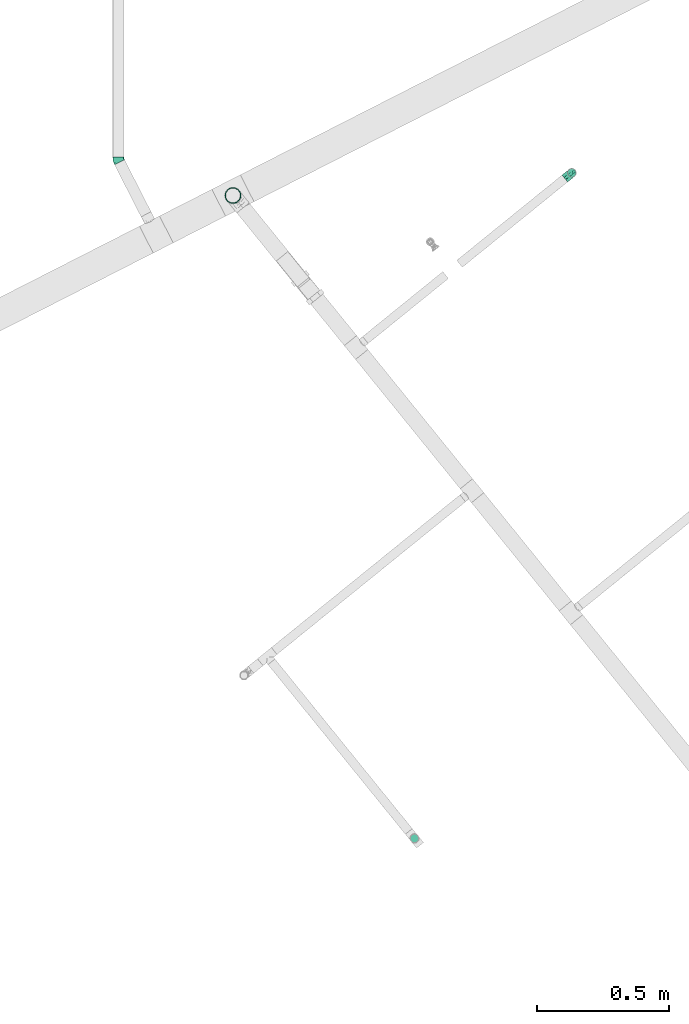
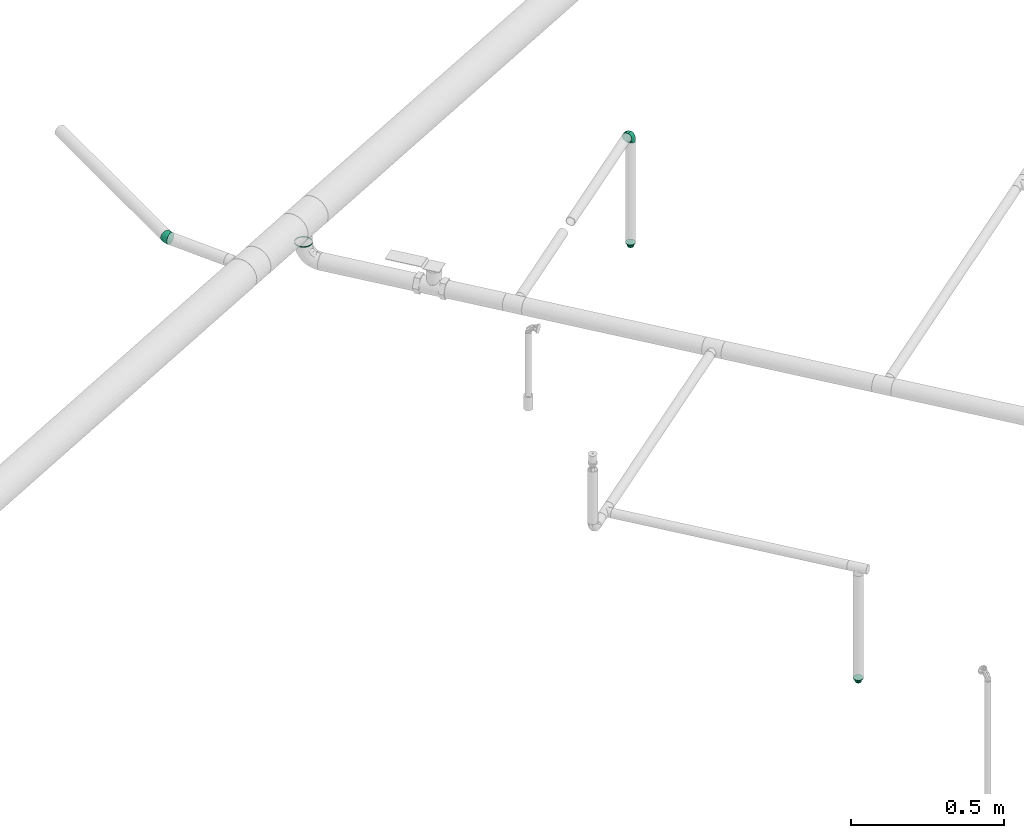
# One storey, part 84 of 94: 4 flow fittings, 1 flow segment.
"""IFC2X3 building model written with IfcOpenShell, lengths in millimetres."""

from ifc_helpers import new_model, entity, si_unit, converted_unit, derived_unit, direction, frame, origin_with_axes, origin_2d_with_axis, place, context, subcontext, project, spatial, hollow_circle, extrude, open_shell, surface_model, source, transform, mapped, type_object, element, save


model = new_model("IFC2X3")

# Units and contexts
model_context = context("Model", 3, precision=0.01, world=frame((0.0, 4.29681676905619e-09, 0.0)), true_north=direction((4.01073788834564e-13, 1.0)))
plan_context = context("Plan", 3, precision=0.01, world=frame((0.0, 4.29681676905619e-09, 0.0)), true_north=direction((4.01073788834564e-13, 1.0)))
body_context = subcontext(model_context, "Body", "Model", "MODEL_VIEW")
ifc_project = project(units=[converted_unit("PLANEANGLEUNIT", "DEGREE", entity("IfcPositiveLengthMeasure", 0.0174532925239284), si_unit("PLANEANGLEUNIT", "RADIAN"), dimensions=[0, 0, 0, 0, 0, 0, 0]), si_unit("AREAUNIT", "SQUARE_METRE"), si_unit("LENGTHUNIT", "METRE", prefix="MILLI"), si_unit("MASSUNIT", "GRAM", prefix="KILO"), si_unit("POWERUNIT", "WATT"), si_unit("PRESSUREUNIT", "PASCAL", prefix="KILO"), si_unit("FORCEUNIT", "NEWTON", prefix="KILO"), si_unit("ELECTRICVOLTAGEUNIT", "VOLT"), si_unit("ELECTRICCURRENTUNIT", "AMPERE"), si_unit("THERMODYNAMICTEMPERATUREUNIT", "DEGREE_CELSIUS"), si_unit("TIMEUNIT", "SECOND"), si_unit("VOLUMEUNIT", "CUBIC_METRE"), derived_unit("LINEARVELOCITYUNIT", [(si_unit("LENGTHUNIT", "METRE"), 1), (si_unit("TIMEUNIT", "SECOND"), -1)]), derived_unit("VOLUMETRICFLOWRATEUNIT", [(si_unit("VOLUMEUNIT", "CUBIC_METRE"), 1), (si_unit("TIMEUNIT", "SECOND"), -1)]), derived_unit("THERMALTRANSMITTANCEUNIT", [(si_unit("POWERUNIT", "WATT"), 1), (si_unit("THERMODYNAMICTEMPERATUREUNIT", "KELVIN"), -1), (si_unit("AREAUNIT", "SQUARE_METRE"), -1)]), derived_unit("SOUNDPRESSUREUNIT", [(si_unit("PRESSUREUNIT", "PASCAL"), 1)])], contexts=[model_context, plan_context])

# Site, building, storey
site_placement = place(None, frame((0.0, -4.29681676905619e-09, 0.0), z_axis=(0.0, 0.0, 1.0), x_axis=(1.0, 0.0, 0.0)))
site = spatial("IfcSite", under=ifc_project, at=site_placement, CompositionType="ELEMENT")
building_placement = place(site_placement, frame((0.0, 4.29681676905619e-09, 0.0), z_axis=(0.0, 0.0, 1.0), x_axis=(1.0, 0.0, 0.0)))
building = spatial("IfcBuilding", under=site, at=building_placement, Name="mc-building", CompositionType="ELEMENT")
storey_placement = place(building_placement, frame((0.0, 0.0, 210900.0), z_axis=(0.0, 0.0, 1.0), x_axis=(1.0, 0.0, 0.0)))
storey = spatial("IfcBuildingStorey", under=building, at=storey_placement, Name="Nivå F", CompositionType="ELEMENT", Elevation=210900.0)

# Flow fittings
pipe_fitting_type_1 = type_object("IfcPipeFittingType", Name="magi_pipe_fe_reducer_centric_short_NOR", PredefinedType="TRANSITION")
shared_shape_1 = source(origin_with_axes(), body_context, "Body", "SurfaceModel", [
    surface_model("IfcShellBasedSurfaceModel", [(14.4, 5.35, -9.26647), (14.4, 0.0, -10.7), (14.4, 2.76936, -10.33541), (14.4, 10.33541, -2.76936), (14.4, 7.56604, -7.56604), (14.4, -10.33541, -2.76936), (14.4, 9.26647, -5.35), (14.4, 0.0, 10.7), (14.4, -5.35, -9.26647), (14.4, -2.76936, -10.33541), (14.4, -7.56604, -7.56604), (14.4, -9.26647, -5.35), (14.4, 10.7, 0.0), (14.4, 10.33541, 2.76936), (14.4, 9.26647, 5.35), (14.4, 7.56604, 7.56604), (14.4, 2.76936, 10.33541), (14.4, 5.35, 9.26647), (14.4, -10.33541, 2.76936), (14.4, -7.56604, 7.56604), (14.4, -9.26647, 5.35), (14.4, -10.7, 0.0), (14.4, -2.76936, 10.33541), (14.4, -5.35, 9.26647), (12.4, 2.76936, 10.33541), (12.4, -10.33541, -2.76936), (12.4, 0.0, 10.7), (12.4, 5.35, 9.26647), (12.4, 7.56604, 7.56604), (12.4, 9.26647, 5.35), (12.4, 10.33541, 2.76936), (12.4, -10.33541, 2.76936), (12.4, -2.76936, 10.33541), (12.4, -7.56604, 7.56604), (12.4, -5.35, 9.26647), (12.4, -9.26647, 5.35), (12.4, -10.7, 0.0), (12.4, 10.33541, -2.76936), (12.4, 5.35, -9.26647), (12.4, 9.26647, -5.35), (12.4, 7.56604, -7.56604), (12.4, 2.76936, -10.33541), (12.4, -9.26647, -5.35), (12.4, -5.35, -9.26647), (12.4, -7.56604, -7.56604), (12.4, 0.0, -10.7), (12.4, -2.76936, -10.33541), (12.4, 10.7, 0.0), (-2.0, 11.9501, 11.9501), (-2.0, 0.0, 16.9), (-2.0, 4.37404, 16.32415), (-2.0, 8.45, 14.63583), (-2.0, 14.63583, 8.45), (-2.0, 16.32415, 4.37404), (-2.0, -16.32415, 4.37404), (-2.0, -8.45, 14.63583), (-2.0, -14.63583, 8.45), (-2.0, -11.9501, 11.9501), (-2.0, -4.37404, 16.32415), (-2.0, -16.32415, -4.37404), (-2.0, -16.9, 0.0), (-2.0, -8.45, -14.63583), (-2.0, 16.32415, -4.37404), (-2.0, 11.9501, -11.9501), (-2.0, 14.63583, -8.45), (-2.0, 8.45, -14.63583), (-2.0, 4.37404, -16.32415), (-2.0, 0.0, -16.9), (-2.0, -11.9501, -11.9501), (-2.0, -14.63583, -8.45), (-2.0, -4.37404, -16.32415), (-2.0, 16.9, 0.0), (0.0, 4.37404, -16.32415), (0.0, 8.45, -14.63583), (0.0, 11.9501, -11.9501), (0.0, 0.0, -16.9), (0.0, 16.32415, -4.37404), (0.0, 16.32415, 4.37404), (0.0, 14.63583, -8.45), (0.0, -8.45, -14.63583), (0.0, -4.37404, -16.32415), (0.0, -11.9501, -11.9501), (0.0, -16.32415, -4.37404), (0.0, -14.63583, -8.45), (0.0, -16.32415, 4.37404), (0.0, 16.9, 0.0), (0.0, 14.63583, 8.45), (0.0, 11.9501, 11.9501), (0.0, 4.37404, 16.32415), (0.0, 8.45, 14.63583), (0.0, 0.0, 16.9), (0.0, -14.63583, 8.45), (0.0, -16.9, 0.0), (0.0, -8.45, 14.63583), (0.0, -11.9501, 11.9501), (0.0, -4.37404, 16.32415), (12.4, 9.3625, -2.31662), (0.0, 14.42505, -5.97505), (0.0, 15.66253, -2.98753), (12.4, -6.6875, -6.94985), (0.0, -13.18758, -8.96258), (0.0, 2.98753, -15.66253), (12.4, 0.0, -9.26647), (12.4, 6.6875, -6.94985), (0.0, 8.96258, -13.18758), (12.4, -9.3625, -2.31662), (0.0, -15.66253, -2.98753), (0.0, -14.42505, -5.97505), (0.0, 5.97505, -14.42505), (0.0, -2.98753, -15.66253), (0.0, -8.96258, -13.18758), (0.0, 13.18758, -8.96258), (12.4, 8.025, -4.63324), (12.4, -2.675, -9.26647), (12.4, 2.675, -9.26647), (0.0, -5.97505, -14.42505), (12.4, -8.025, -4.63324), (12.4, -9.3625, 2.31662), (0.0, -14.42505, 5.97505), (0.0, -15.66253, 2.98753), (12.4, 6.6875, 6.94985), (0.0, 13.18758, 8.96258), (0.0, -2.98753, 15.66253), (12.4, 0.0, 9.26647), (12.4, -6.6875, 6.94985), (0.0, -8.96258, 13.18758), (12.4, 9.3625, 2.31662), (0.0, 15.66253, 2.98753), (0.0, 14.42505, 5.97505), (0.0, -5.97505, 14.42505), (0.0, 2.98753, 15.66253), (0.0, 8.96258, 13.18758), (0.0, -13.18758, 8.96258), (12.4, -8.025, 4.63324), (12.4, 2.675, 9.26647), (12.4, -2.675, 9.26647), (0.0, 5.97505, 14.42505), (12.4, 8.025, 4.63324)], [open_shell([[[0, 1, 2]], [[3, 0, 4]], [[5, 0, 3]], [[3, 4, 6]], [[7, 5, 3]], [[1, 8, 9]], [[1, 0, 8]], [[10, 5, 11]], [[5, 10, 8]], [[0, 5, 8]], [[3, 12, 13]], [[13, 14, 15]], [[13, 15, 16]], [[7, 3, 16]], [[16, 15, 17]], [[7, 18, 5]], [[18, 19, 20]], [[21, 5, 18]], [[19, 22, 23]], [[22, 19, 18]], [[7, 22, 18]], [[13, 16, 3]], [[24, 25, 26]], [[27, 25, 24]], [[28, 29, 30]], [[28, 25, 27]], [[31, 26, 25]], [[32, 33, 34]], [[33, 32, 31]], [[33, 31, 35]], [[32, 26, 31]], [[31, 25, 36]], [[30, 37, 28]], [[25, 28, 37]], [[38, 37, 39]], [[37, 38, 25]], [[38, 39, 40]], [[41, 25, 38]], [[42, 43, 44]], [[43, 42, 25]], [[43, 45, 46]], [[43, 25, 41]], [[41, 45, 43]], [[37, 30, 47]], [[25, 5, 36]], [[42, 11, 25]], [[8, 44, 43]], [[42, 44, 10]], [[9, 43, 46]], [[25, 11, 5]], [[5, 21, 36]], [[9, 8, 43]], [[10, 44, 8]], [[10, 11, 42]], [[1, 9, 46]], [[46, 45, 1]], [[41, 2, 45]], [[38, 0, 41]], [[6, 40, 39]], [[38, 40, 4]], [[3, 39, 37]], [[38, 4, 0]], [[0, 2, 41]], [[12, 3, 37]], [[6, 39, 3]], [[6, 4, 40]], [[47, 12, 37]], [[45, 2, 1]], [[30, 13, 47]], [[29, 14, 30]], [[17, 28, 27]], [[29, 28, 15]], [[16, 27, 24]], [[30, 14, 13]], [[13, 12, 47]], [[16, 17, 27]], [[15, 28, 17]], [[15, 14, 29]], [[7, 16, 24]], [[24, 26, 7]], [[32, 22, 26]], [[34, 23, 32]], [[20, 33, 35]], [[34, 33, 19]], [[18, 35, 31]], [[34, 19, 23]], [[23, 22, 32]], [[21, 18, 31]], [[20, 35, 18]], [[20, 19, 33]], [[36, 21, 31]], [[26, 22, 7]], [[48, 49, 50]], [[48, 50, 51]], [[48, 52, 53]], [[48, 53, 49]], [[49, 53, 54]], [[55, 56, 57]], [[55, 58, 49]], [[56, 55, 49]], [[49, 54, 56]], [[54, 59, 60]], [[54, 53, 61]], [[53, 62, 63]], [[63, 62, 64]], [[63, 65, 66]], [[61, 53, 63]], [[67, 63, 66]], [[59, 68, 69]], [[68, 59, 61]], [[61, 67, 70]], [[59, 54, 61]], [[63, 67, 61]], [[53, 71, 62]], [[72, 73, 74]], [[75, 72, 74]], [[74, 76, 77]], [[76, 74, 78]], [[74, 77, 79]], [[75, 79, 80]], [[75, 74, 79]], [[81, 82, 83]], [[82, 81, 79]], [[79, 84, 82]], [[77, 76, 85]], [[77, 86, 87]], [[77, 87, 88]], [[88, 84, 79]], [[88, 87, 89]], [[84, 88, 90]], [[90, 91, 84]], [[92, 82, 84]], [[91, 93, 94]], [[91, 90, 93]], [[93, 90, 95]], [[79, 77, 88]], [[59, 82, 60]], [[69, 83, 59]], [[79, 68, 61]], [[69, 68, 81]], [[80, 61, 70]], [[59, 83, 82]], [[82, 92, 60]], [[80, 79, 61]], [[81, 68, 79]], [[81, 83, 69]], [[75, 80, 70]], [[70, 67, 75]], [[66, 72, 67]], [[65, 73, 66]], [[78, 63, 64]], [[65, 63, 74]], [[76, 64, 62]], [[65, 74, 73]], [[73, 72, 66]], [[85, 76, 62]], [[78, 64, 76]], [[78, 74, 63]], [[71, 85, 62]], [[67, 72, 75]], [[53, 77, 71]], [[52, 86, 53]], [[89, 48, 51]], [[52, 48, 87]], [[88, 51, 50]], [[53, 86, 77]], [[77, 85, 71]], [[88, 89, 51]], [[87, 48, 89]], [[87, 86, 52]], [[90, 88, 50]], [[50, 49, 90]], [[58, 95, 49]], [[55, 93, 58]], [[91, 57, 56]], [[55, 57, 94]], [[84, 56, 54]], [[55, 94, 93]], [[93, 95, 58]], [[92, 84, 54]], [[91, 56, 84]], [[91, 94, 57]], [[60, 92, 54]], [[49, 95, 90]], [[27, 34, 47]], [[47, 34, 43]], [[43, 38, 47]], [[43, 34, 36]], [[90, 87, 94]], [[92, 94, 87]], [[87, 74, 92]], [[75, 92, 74]], [[81, 92, 75]], [[74, 87, 85]], [[96, 97, 98]], [[81, 99, 100]], [[101, 102, 75]], [[98, 85, 47]], [[74, 103, 104]], [[104, 103, 38]], [[105, 106, 107]], [[38, 108, 104]], [[102, 109, 75]], [[110, 99, 81]], [[47, 96, 98]], [[103, 111, 112]], [[109, 102, 113]], [[36, 92, 106]], [[102, 101, 114]], [[110, 115, 43]], [[96, 112, 97]], [[107, 116, 105]], [[36, 106, 105]], [[113, 115, 109]], [[43, 115, 113]], [[116, 107, 100]], [[108, 38, 114]], [[111, 103, 74]], [[111, 97, 112]], [[99, 110, 43]], [[116, 100, 99]], [[101, 108, 114]], [[117, 118, 119]], [[87, 120, 121]], [[122, 123, 90]], [[119, 92, 36]], [[94, 124, 125]], [[125, 124, 34]], [[126, 127, 128]], [[34, 129, 125]], [[123, 130, 90]], [[131, 120, 87]], [[36, 117, 119]], [[124, 132, 133]], [[130, 123, 134]], [[47, 85, 127]], [[123, 122, 135]], [[131, 136, 27]], [[117, 133, 118]], [[128, 137, 126]], [[47, 127, 126]], [[134, 136, 130]], [[27, 136, 134]], [[137, 128, 121]], [[129, 34, 135]], [[132, 124, 94]], [[132, 118, 133]], [[120, 131, 27]], [[137, 121, 120]], [[122, 129, 135]]])]),
])
for number, where, z_axis, x_axis, name in (
    (1, (724940.47836, 442943.58842, 3059.35200000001), (-0.000893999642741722, -0.99999960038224, 0.0), (0.0, 0.0, -1.0), "magi_pipe_fe_reducer_centric_short_NOR"),
    (2, (725535.77009, 445461.44548, 3059.35200000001), (-1.0, 0.0, 0.0), (0.0, 0.0, -1.0), "magi_pipe_fe_reducer_centric_short_NOR"),
):
    element("IfcFlowFitting", number, at=place(storey_placement, frame(where, z_axis=z_axis, x_axis=x_axis)), inside=storey, type_object=pipe_fitting_type_1, Name=name, context=body_context, shape_type="MappedRepresentation", body=[
        mapped(shared_shape_1, transform((0.0, 0.0, 0.0), scale=1.0)),
    ])
pipe_fitting_type_2 = type_object("IfcPipeFittingType", Name="magi_pipe_fe_elbow_short_001", PredefinedType="BEND")
shared_shape_2 = source(origin_with_axes(), body_context, "Body", "SurfaceModel", [
    surface_model("IfcShellBasedSurfaceModel", [(-33.8, 8.45, -14.63583), (-33.8, 4.37404, -16.32415), (-33.8, 11.9501, -11.9501), (-33.8, -11.9501, -11.9501), (-33.8, -14.63583, -8.45), (-33.8, -8.45, -14.63583), (-33.8, 0.0, -16.9), (-33.8, -4.37404, -16.32415), (-33.8, -4.37404, 16.32415), (-33.8, 0.0, 16.9), (-33.8, -8.45, 14.63583), (-33.8, 16.32415, -4.37404), (-33.8, 14.63583, -8.45), (-33.8, -16.32415, -4.37404), (-33.8, -16.9, 0.0), (-33.8, -16.32415, 4.37404), (-33.8, 11.9501, 11.9501), (-33.8, 14.63583, 8.45), (-33.8, 16.32415, 4.37404), (-33.8, 4.37404, 16.32415), (-33.8, 8.45, 14.63583), (-33.8, -14.63583, 8.45), (-33.8, -11.9501, 11.9501), (-33.8, 16.9, 0.0), (-11.9501, 33.8, -11.9501), (0.0, 33.8, -16.9), (-4.37404, 33.8, -16.32415), (-8.45, 33.8, -14.63583), (-14.63583, 33.8, -8.45), (-16.32415, 33.8, -4.37404), (14.63583, 33.8, -8.45), (8.45, 33.8, 14.63583), (16.32415, 33.8, -4.37404), (8.45, 33.8, -14.63583), (11.9501, 33.8, -11.9501), (4.37404, 33.8, -16.32415), (16.32415, 33.8, 4.37404), (16.9, 33.8, 0.0), (-11.9501, 33.8, 11.9501), (-16.32415, 33.8, 4.37404), (-14.63583, 33.8, 8.45), (-8.45, 33.8, 14.63583), (-4.37404, 33.8, 16.32415), (11.9501, 33.8, 11.9501), (14.63583, 33.8, 8.45), (0.0, 33.8, 16.9), (4.37404, 33.8, 16.32415), (-16.9, 33.8, 0.0), (-24.79389, -13.12945, 9.48721), (-22.19287, -9.75018, 12.59315), (-24.09897, -14.97035, 0.0), (-14.93934, -10.76256, 8.5297), (-22.46095, -14.75051, 5.27077), (14.75051, 22.46094, 5.27077), (11.9251, 13.23888, 4.33236), (13.04069, 14.39795, 0.0), (7.71387, 13.68847, 11.55891), (9.75018, 22.19287, 12.59315), (4.10169, 13.0571, 14.04018), (-24.84007, -6.39063, 15.2048), (-25.81779, -2.23879, 16.61097), (-23.66549, 2.59054, 16.87119), (-26.50418, 14.06512, 11.08152), (-24.21253, 17.66365, 7.72657), (-29.58514, 15.86957, 7.00283), (-6.17382, -7.5455, 0.0), (-13.23888, -11.9251, 4.33236), (-14.39795, -13.04069, 0.0), (-17.81434, 18.87373, 11.97104), (-6.30846, 29.15138, 15.82987), (-2.31622, 25.28002, 16.85849), (-29.23923, 10.23435, 13.77053), (-1.45439, -2.85688, 7.61475), (-0.28326, 0.34872, 10.09509), (-5.74484, -4.04709, 10.4122), (-4.41137, 11.31918, 16.59407), (-8.39727, 3.10034, 15.7812), (-1.72649, 9.1306, 15.53089), (-17.39909, 24.75344, 7.64977), (-26.19233, 20.0512, 0.0), (-28.14518, 17.29657, 4.25857), (-26.05147, 6.6281, 15.96447), (-5.87354, 16.61944, 16.86968), (-12.51807, 12.51807, 16.48937), (-10.06312, 7.38516, 16.81295), (-3.01882, 3.01882, 13.81718), (-13.0571, -4.10169, 14.04018), (-16.82553, -0.15166, 16.38038), (10.76256, 14.93934, 8.5297), (13.12945, 24.79389, 9.48721), (6.39063, 24.84007, 15.2048), (2.23879, 25.81779, 16.61097), (-13.68847, -7.71387, 11.55891), (14.97035, 24.09897, 0.0), (-7.30894, 22.89991, 16.09489), (-10.67958, 26.17414, 14.008), (-12.78295, 18.26924, 15.06066), (-13.88562, 22.45231, 12.93244), (-18.04944, 15.16501, 14.04434), (-23.11658, 20.08178, 4.02986), (-21.84989, 21.84989, 0.0), (-18.55817, 25.48277, 3.93065), (-13.95142, 26.94732, 11.03289), (-18.57098, 7.23906, 16.59756), (-16.58335, 4.14122, 16.89279), (-17.96666, 11.46709, 15.63151), (-9.84453, 17.54304, 16.18938), (0.15166, 16.82553, 16.38038), (-23.27207, 11.47201, 14.23154), (3.84842, 5.86994, 10.70473), (-8.0212, -7.54413, 7.93275), (1.00345, -2.19508, 4.57414), (5.13203, 3.01004, 5.90201), (5.24161, 1.7543, 2.53265), (8.70457, 7.04947, 3.99182), (-20.0512, 26.19233, 0.0), (8.4852, 8.76699, 7.09296), (-4.55488, -6.72064, 4.90681), (2.05031, -2.05031, 0.0), (7.5455, 6.17382, 0.0), (-26.75399, 2.1369, -16.845), (-14.61995, 24.73803, -11.27736), (-28.45274, -13.45335, -9.81895), (-26.00469, 6.63555, -15.96645), (-23.06726, 20.04573, -4.26202), (-13.80647, -4.26506, -14.17873), (-14.67501, -0.21081, -16.07388), (-6.7902, -0.2828, -13.8478), (-24.53586, 11.08096, -14.13417), (-26.72048, 14.00837, -11.05776), (10.0967, 24.44989, -12.75976), (5.83237, 21.40218, -15.03047), (6.66249, 28.54238, -15.38093), (-20.38182, 15.48705, -12.74596), (12.53268, 21.23441, -9.15363), (12.54494, 15.67504, -5.54878), (9.7522, 12.89279, -8.66343), (-15.65186, 19.64213, -13.01327), (-12.03528, 20.66498, -14.67665), (-15.61907, 15.61906, -14.83879), (-25.56551, -15.26206, 0.0), (-24.65452, -15.12934, -5.50955), (13.45335, 28.45274, -9.81895), (15.12934, 24.65452, -5.50955), (-7.35442, -8.31014, -5.65563), (-15.67504, -12.54494, -5.54878), (-24.44989, -10.0967, -12.75976), (0.16522, 0.41303, -9.71728), (-5.70658, -5.33066, -8.89288), (-5.13869, -2.37198, -11.53565), (-21.23441, -12.53268, -9.15363), (0.71146, 7.93863, -14.09382), (0.21081, 14.67501, -16.07388), (3.49291, 14.42772, -14.76381), (-24.89911, -2.13088, -16.591), (-28.54238, -6.66249, -15.38093), (-18.44386, -7.71663, -13.26957), (2.13088, 24.89911, -16.591), (-28.64342, 17.44413, -2.89318), (1.70017, -1.28722, -5.09504), (-16.57067, 26.81947, -7.36596), (-17.69055, 27.4263, -3.76405), (-12.89279, -9.7522, -8.66343), (-5.96611, 5.96611, -15.95814), (-20.53709, 20.09345, -8.28985), (-2.1369, 26.75399, -16.845), (-6.89872, 24.58781, -16.02578), (-10.60739, 26.53157, -13.98044), (-21.40218, -5.83237, -15.03047), (2.93192, 5.89627, -11.55917), (6.89393, 12.61842, -11.82233), (5.58056, 5.95325, -8.79455), (-3.99512, 18.61798, -16.89635), (8.31014, 7.35442, -5.65563), (-9.1383, 9.86148, -16.89041), (-9.99983, 16.02119, -16.39699), (-16.68576, 9.78031, -16.34199), (-27.01915, 16.61158, -7.12979), (15.26206, 25.56551, 0.0), (-18.61798, 3.99512, -16.89635), (-19.37495, 27.82495, 0.0), (-12.61842, -6.89393, -11.82233), (-18.84705, 19.14018, -10.96545)], [open_shell([[[0, 1, 2]], [[3, 4, 5]], [[6, 7, 5]], [[8, 9, 10]], [[1, 6, 2]], [[11, 12, 2]], [[4, 2, 6]], [[2, 13, 10]], [[5, 4, 6]], [[2, 4, 13]], [[14, 15, 13]], [[11, 2, 16]], [[11, 17, 18]], [[11, 16, 17]], [[19, 20, 16]], [[16, 2, 10]], [[19, 16, 10]], [[21, 22, 15]], [[22, 13, 15]], [[22, 10, 13]], [[10, 9, 19]], [[11, 18, 23]], [[24, 25, 26]], [[24, 26, 27]], [[24, 28, 29]], [[25, 24, 30]], [[31, 32, 24]], [[33, 30, 34]], [[33, 35, 25]], [[25, 30, 33]], [[32, 30, 24]], [[32, 36, 37]], [[38, 24, 29]], [[39, 40, 29]], [[40, 38, 29]], [[38, 41, 42]], [[38, 31, 24]], [[31, 38, 42]], [[36, 43, 44]], [[36, 32, 43]], [[31, 45, 46]], [[32, 31, 43]], [[42, 45, 31]], [[39, 29, 47]], [[22, 48, 49]], [[15, 14, 50]], [[51, 48, 52]], [[53, 54, 55]], [[48, 22, 21]], [[15, 52, 21]], [[56, 57, 58]], [[49, 10, 22]], [[49, 59, 10]], [[9, 60, 61]], [[62, 63, 64]], [[65, 66, 67]], [[57, 43, 31]], [[62, 68, 63]], [[42, 69, 70]], [[20, 71, 16]], [[8, 60, 9]], [[72, 73, 74]], [[75, 76, 77]], [[16, 62, 17]], [[40, 39, 78]], [[79, 23, 80]], [[64, 18, 17]], [[9, 61, 19]], [[19, 81, 20]], [[82, 83, 84]], [[74, 85, 86]], [[59, 86, 87]], [[88, 89, 57]], [[90, 31, 46]], [[44, 53, 36]], [[46, 45, 91]], [[54, 53, 88]], [[44, 89, 53]], [[92, 86, 49]], [[89, 44, 43]], [[10, 59, 8]], [[53, 55, 93]], [[93, 36, 53]], [[66, 52, 67]], [[94, 82, 70]], [[95, 96, 94]], [[97, 98, 96]], [[79, 99, 100]], [[41, 38, 95]], [[101, 100, 99]], [[68, 78, 63]], [[42, 41, 69]], [[23, 18, 80]], [[95, 94, 69]], [[78, 101, 99]], [[38, 102, 95]], [[70, 45, 42]], [[97, 95, 102]], [[15, 50, 52]], [[90, 57, 31]], [[57, 90, 58]], [[81, 19, 61]], [[103, 104, 84]], [[105, 81, 103]], [[38, 40, 102]], [[106, 96, 83]], [[94, 106, 82]], [[91, 70, 107]], [[71, 62, 16]], [[62, 108, 98]], [[86, 59, 49]], [[67, 52, 50]], [[60, 59, 87]], [[92, 49, 51]], [[86, 85, 76]], [[91, 90, 46]], [[37, 36, 93]], [[107, 77, 58]], [[107, 58, 90]], [[58, 85, 109]], [[110, 74, 92]], [[72, 74, 110]], [[66, 51, 52]], [[72, 111, 112]], [[113, 114, 112]], [[56, 88, 57]], [[52, 48, 21]], [[49, 48, 51]], [[57, 89, 43]], [[53, 89, 88]], [[103, 81, 61]], [[71, 81, 108]], [[18, 64, 80]], [[63, 78, 99]], [[47, 115, 101]], [[101, 115, 100]], [[40, 78, 102]], [[68, 102, 78]], [[97, 96, 95]], [[105, 98, 108]], [[103, 84, 83]], [[107, 70, 82]], [[76, 84, 87]], [[82, 84, 75]], [[70, 91, 45]], [[90, 91, 107]], [[59, 60, 8]], [[61, 60, 87]], [[73, 85, 74]], [[109, 112, 116]], [[103, 61, 104]], [[105, 103, 83]], [[96, 105, 83]], [[81, 105, 108]], [[96, 98, 105]], [[62, 98, 68]], [[61, 87, 104]], [[87, 84, 104]], [[86, 76, 87]], [[77, 76, 85]], [[58, 77, 85]], [[75, 77, 107]], [[82, 75, 107]], [[76, 75, 84]], [[81, 71, 20]], [[62, 71, 108]], [[95, 69, 41]], [[70, 69, 94]], [[62, 64, 17]], [[80, 63, 99]], [[63, 80, 64]], [[80, 99, 79]], [[66, 65, 117]], [[110, 66, 117]], [[112, 114, 116]], [[118, 117, 65]], [[110, 92, 51]], [[112, 111, 113]], [[119, 55, 54]], [[74, 86, 92]], [[58, 109, 56]], [[116, 56, 109]], [[66, 110, 51]], [[72, 110, 117]], [[111, 72, 117]], [[73, 112, 109]], [[117, 118, 111]], [[113, 111, 118]], [[118, 119, 113]], [[114, 119, 54]], [[119, 114, 113]], [[116, 54, 88]], [[54, 116, 114]], [[116, 88, 56]], [[112, 73, 72]], [[85, 73, 109]], [[78, 39, 101]], [[47, 101, 39]], [[102, 68, 97]], [[97, 68, 98]], [[82, 106, 83]], [[94, 96, 106]], [[1, 120, 6]], [[28, 24, 121]], [[3, 122, 4]], [[0, 123, 1]], [[100, 124, 79]], [[125, 126, 127]], [[128, 2, 129]], [[130, 131, 132]], [[128, 129, 133]], [[134, 135, 136]], [[137, 138, 139]], [[128, 0, 2]], [[67, 140, 141]], [[134, 142, 143]], [[141, 13, 4]], [[144, 65, 145]], [[146, 3, 5]], [[147, 148, 149]], [[145, 141, 150]], [[151, 152, 153]], [[154, 7, 6]], [[5, 155, 146]], [[150, 146, 156]], [[155, 5, 7]], [[143, 135, 134]], [[35, 157, 25]], [[23, 79, 158]], [[148, 159, 144]], [[160, 161, 29]], [[145, 162, 144]], [[163, 152, 151]], [[29, 28, 160]], [[121, 164, 160]], [[33, 34, 130]], [[25, 165, 26]], [[26, 165, 166]], [[142, 34, 30]], [[24, 27, 167]], [[124, 161, 164]], [[157, 35, 132]], [[155, 154, 168]], [[123, 0, 128]], [[169, 170, 171]], [[172, 157, 152]], [[26, 166, 27]], [[132, 35, 33]], [[142, 130, 34]], [[168, 154, 126]], [[136, 135, 173]], [[133, 137, 139]], [[2, 12, 129]], [[170, 131, 130]], [[30, 32, 143]], [[172, 174, 175]], [[176, 123, 128]], [[158, 177, 11]], [[135, 55, 119]], [[167, 27, 166]], [[175, 166, 172]], [[137, 167, 138]], [[122, 141, 4]], [[140, 14, 13]], [[32, 37, 178]], [[170, 130, 134]], [[152, 157, 131]], [[165, 157, 172]], [[153, 170, 151]], [[152, 163, 174]], [[168, 125, 156]], [[122, 146, 150]], [[120, 154, 6]], [[179, 174, 126]], [[179, 126, 154]], [[126, 163, 127]], [[162, 145, 150]], [[140, 13, 141]], [[32, 178, 143]], [[55, 143, 178]], [[177, 129, 12]], [[128, 133, 139]], [[176, 128, 139]], [[120, 123, 179]], [[121, 160, 28]], [[161, 100, 180]], [[166, 175, 138]], [[121, 24, 167]], [[161, 47, 29]], [[79, 124, 158]], [[124, 164, 177]], [[161, 124, 100]], [[136, 171, 170]], [[127, 163, 151]], [[147, 171, 159]], [[148, 144, 162]], [[127, 151, 169]], [[127, 181, 125]], [[129, 177, 164]], [[12, 11, 177]], [[159, 65, 144]], [[67, 141, 145]], [[143, 55, 135]], [[135, 119, 173]], [[123, 120, 1]], [[154, 120, 179]], [[157, 165, 25]], [[166, 165, 172]], [[172, 152, 174]], [[176, 139, 175]], [[126, 174, 163]], [[176, 174, 179]], [[174, 176, 175]], [[123, 176, 179]], [[150, 181, 162]], [[127, 149, 181]], [[181, 148, 162]], [[159, 148, 147]], [[171, 136, 173]], [[170, 134, 136]], [[159, 171, 173]], [[171, 147, 169]], [[169, 147, 149]], [[151, 170, 169]], [[164, 182, 129]], [[182, 121, 137]], [[181, 149, 148]], [[169, 149, 127]], [[182, 137, 133]], [[167, 137, 121]], [[166, 138, 167]], [[175, 139, 138]], [[129, 182, 133]], [[121, 182, 164]], [[161, 160, 164]], [[47, 161, 180]], [[177, 158, 124]], [[23, 158, 11]], [[130, 132, 33]], [[157, 132, 131]], [[143, 142, 30]], [[130, 142, 134]], [[154, 155, 7]], [[146, 155, 168]], [[146, 122, 3]], [[141, 122, 150]], [[152, 131, 153]], [[159, 119, 118]], [[67, 145, 65]], [[170, 153, 131]], [[119, 159, 173]], [[159, 118, 65]], [[156, 125, 181]], [[126, 125, 168]], [[150, 156, 181]], [[168, 156, 146]]])]),
])
flow_fitting_1_placement = place(storey_placement, frame((725535.77009, 445461.44548, 3500.0), z_axis=(-0.629320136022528, 0.777146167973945, 0.0), x_axis=(0.777146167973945, 0.629320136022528, 0.0)))
element("IfcFlowFitting", 3, at=flow_fitting_1_placement, inside=storey, type_object=pipe_fitting_type_2, Name="magi_pipe_fe_elbow_short_001", context=body_context, shape_type="MappedRepresentation", body=[
    mapped(shared_shape_2, transform((0.0, 0.0, 0.0), scale=1.0)),
])
shared_shape_3 = source(origin_with_axes(), body_context, "Body", "SurfaceModel", [
    surface_model("IfcShellBasedSurfaceModel", [(-10.17934, 10.6, -18.35974), (-10.17934, 5.48696, -20.47763), (-10.17934, 0.0, -21.2), (-10.17934, 14.99066, -14.99066), (-10.17934, 20.47763, -5.48696), (-10.17934, 18.35974, -10.6), (-10.17934, -14.99066, 14.99066), (-10.17934, -21.2, 0.0), (-10.17934, -10.6, -18.35974), (-10.17934, -14.99066, -14.99066), (-10.17934, -5.48696, -20.47763), (-10.17934, -20.47763, -5.48696), (-10.17934, -18.35974, -10.6), (-10.17934, 10.6, 18.35974), (-10.17934, 20.47763, 5.48696), (-10.17934, 18.35974, 10.6), (-10.17934, 14.99066, 14.99066), (-10.17934, 0.0, 21.2), (-10.17934, 5.48696, 20.47763), (-10.17934, -20.47763, 5.48696), (-10.17934, -18.35974, 10.6), (-10.17934, -10.6, 18.35974), (-10.17934, -5.48696, 20.47763), (-10.17934, 21.2, 0.0), (9.06986, 4.62132, -21.2), (6.57883, 9.51024, -20.47763), (4.25756, 14.06599, -18.35974), (2.26424, 17.9781, -14.99066), (0.73471, 20.97997, -10.6), (-0.22679, 22.86702, -5.48696), (17.405, -11.73732, -10.6), (13.88216, -4.82335, -18.35974), (15.87548, -8.73546, -14.99066), (11.56089, -0.2676, -20.47763), (18.69446, -14.26802, 0.0), (18.36651, -13.62438, -5.48696), (17.405, -11.73732, 10.6), (-0.55474, 23.51066, 0.0), (-0.22679, 22.86702, 5.48696), (0.73471, 20.97997, 10.6), (4.25756, 14.06599, 18.35974), (2.26424, 17.9781, 14.99066), (6.57883, 9.51024, 20.47763), (9.06986, 4.62132, 21.2), (13.88216, -4.82335, 18.35974), (15.87548, -8.73546, 14.99066), (18.36651, -13.62438, 5.48696), (11.56089, -0.2676, 20.47763), (2.81468, -11.72397, 16.5397), (0.48222, -16.07773, 12.61035), (4.33573, -18.0596, 7.63463), (0.03814, -7.40861, 19.44502), (0.45493, -1.89492, 20.96414), (-0.84405, 3.51573, 21.06248), (-4.16958, 17.36754, 13.11525), (-3.23882, 13.49065, 16.99799), (-5.2303, 21.78576, 0.0), (-4.92824, -20.57849, 0.0), (-0.32998, -20.06967, 3.883), (-2.10425, 8.76483, 19.70935), (4.66779, -19.44273, 0.0), (9.80184, -13.51453, 12.69669), (8.45241, -18.03449, 3.883), (11.68112, -16.85537, 0.0), (0.45493, -1.89492, -20.96414), (3.32945, -6.61844, -19.44502), (2.81468, -11.72397, -16.5397), (-0.84405, 3.51573, -21.06248), (-4.16958, 17.36754, -13.11525), (-2.59803, -16.49148, -12.69669), (4.33573, -18.0596, -7.63463), (-3.23882, 13.49065, -16.99799), (-0.32998, -20.06967, -3.883), (8.45241, -18.03449, -3.883), (6.86947, -14.54429, -12.61035), (-2.10425, 8.76483, -19.70935)], [open_shell([[[0, 1, 2]], [[3, 0, 2]], [[4, 5, 3]], [[2, 4, 3]], [[6, 2, 7]], [[8, 9, 10]], [[9, 2, 10]], [[11, 7, 12]], [[12, 2, 9]], [[12, 7, 2]], [[6, 4, 2]], [[13, 14, 4]], [[15, 14, 16]], [[13, 4, 6]], [[16, 14, 13]], [[13, 17, 18]], [[19, 20, 7]], [[7, 20, 6]], [[21, 22, 6]], [[17, 6, 22]], [[6, 17, 13]], [[23, 4, 14]], [[24, 25, 26]], [[24, 26, 27]], [[27, 28, 29]], [[27, 29, 24]], [[24, 29, 30]], [[31, 30, 32]], [[30, 31, 33]], [[30, 34, 35]], [[30, 33, 24]], [[30, 36, 34]], [[30, 29, 36]], [[37, 38, 39]], [[39, 40, 29]], [[40, 36, 29]], [[40, 39, 41]], [[42, 43, 40]], [[36, 44, 45]], [[46, 34, 36]], [[44, 43, 47]], [[43, 44, 36]], [[40, 43, 36]], [[29, 37, 39]], [[48, 6, 49]], [[21, 6, 48]], [[6, 20, 49]], [[46, 36, 50]], [[22, 21, 51]], [[51, 52, 22]], [[20, 50, 49]], [[17, 22, 52]], [[17, 53, 18]], [[47, 43, 52]], [[50, 20, 19]], [[45, 44, 48]], [[16, 54, 15]], [[55, 16, 13]], [[44, 51, 48]], [[21, 48, 51]], [[43, 42, 53]], [[56, 14, 38]], [[57, 58, 19]], [[56, 23, 14]], [[38, 14, 15]], [[53, 59, 18]], [[13, 18, 59]], [[52, 53, 17]], [[60, 58, 57]], [[61, 50, 36]], [[51, 44, 47]], [[52, 51, 47]], [[62, 60, 63]], [[53, 52, 43]], [[50, 61, 49]], [[48, 49, 61]], [[55, 54, 16]], [[45, 61, 36]], [[48, 61, 45]], [[62, 63, 46]], [[15, 54, 39]], [[39, 38, 15]], [[37, 56, 38]], [[40, 41, 55]], [[59, 55, 13]], [[63, 34, 46]], [[59, 40, 55]], [[62, 58, 60]], [[41, 54, 55]], [[19, 58, 50]], [[39, 54, 41]], [[53, 42, 59]], [[19, 7, 57]], [[46, 50, 62]], [[62, 50, 58]], [[42, 40, 59]], [[2, 64, 10]], [[8, 65, 66]], [[33, 31, 65]], [[2, 1, 67]], [[68, 3, 5]], [[69, 70, 12]], [[71, 3, 68]], [[72, 73, 60]], [[4, 29, 5]], [[32, 30, 74]], [[64, 67, 24]], [[0, 75, 1]], [[72, 70, 73]], [[57, 11, 72]], [[66, 9, 8]], [[67, 75, 25]], [[11, 12, 70]], [[12, 9, 69]], [[10, 65, 8]], [[75, 71, 26]], [[57, 7, 11]], [[28, 68, 5]], [[4, 23, 56]], [[70, 69, 74]], [[56, 37, 29]], [[72, 60, 57]], [[30, 70, 74]], [[29, 28, 5]], [[68, 28, 27]], [[66, 74, 69]], [[26, 25, 75]], [[10, 64, 65]], [[64, 2, 67]], [[3, 71, 0]], [[31, 66, 65]], [[24, 67, 25]], [[33, 65, 64]], [[67, 1, 75]], [[75, 0, 71]], [[66, 31, 32]], [[30, 35, 70]], [[71, 68, 27]], [[35, 63, 73]], [[70, 35, 73]], [[66, 69, 9]], [[32, 74, 66]], [[27, 26, 71]], [[33, 64, 24]], [[63, 35, 34]], [[4, 56, 29]], [[63, 60, 73]], [[11, 70, 72]]])]),
])
flow_fitting_2_placement = place(storey_placement, frame((723820.06963, 445510.82841, 3650.0), z_axis=(0.0, 0.0, 1.0), x_axis=(0.0, -1.0, 0.0)))
element("IfcFlowFitting", 4, at=flow_fitting_2_placement, inside=storey, type_object=pipe_fitting_type_2, Name="magi_pipe_fe_elbow_short_001", context=body_context, shape_type="MappedRepresentation", body=[
    mapped(shared_shape_3, transform((0.0, 0.0, 0.0), scale=1.0)),
])

# Flow segment
pipe_segment_type = type_object("IfcPipeSegmentType", Name="Stålrør normaltykke", PredefinedType="RIGIDSEGMENT")
shared_shape_4 = source(origin_with_axes(), body_context, "Body", "SweptSolid", [
    extrude(hollow_circle(Radius=30.1, WallThickness=2.0, at=origin_2d_with_axis()), frame((0.0, 0.0, 0.0), z_axis=(1.0, 0.0, 0.0), x_axis=(0.0, 1.0, 0.0)), (0.0, 0.0, 1.0), 3.8),
])
flow_segment_placement = place(storey_placement, frame((724253.77852, 445375.86836, 3564.20000000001), z_axis=(0.453989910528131, -0.891006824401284, 2.99999940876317e-06), x_axis=(1.36196946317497e-06, -2.67301994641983e-06, -0.9999999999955)))
element("IfcFlowSegment", 5, at=flow_segment_placement, inside=storey, type_object=pipe_segment_type, Name="Stålrør normaltykke", context=body_context, shape_type="MappedRepresentation", body=[
    mapped(shared_shape_4, transform((0.0, 0.0, 0.0), scale=1.0)),
])

save(model, "model.ifc")
